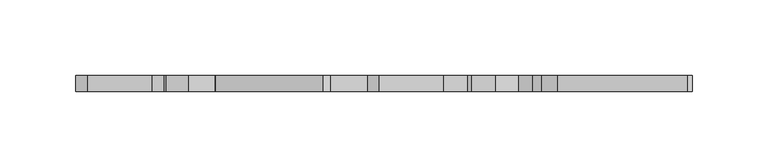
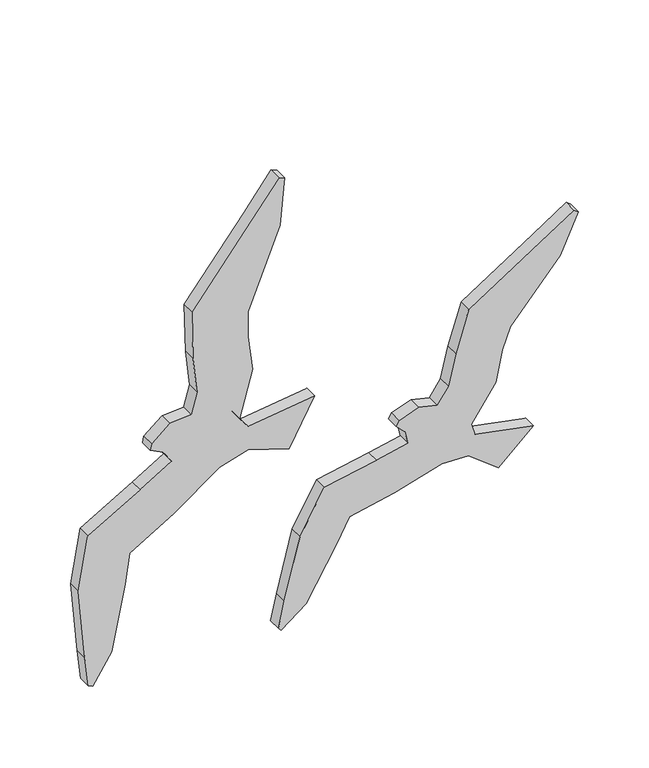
"""IFC4 building model written with IfcOpenShell, lengths in millimetres: geographic element geometry, Enscape AssetDefinition - Decorative Goods 018 Swallow Birds : Enscape AssetDefinition - Decorative Goods 018 Swallow Birds."""

from ifc_helpers import new_model, si_unit, origin, place, context, project, spatial, triangles, source, transform, mapped, element, save


def geographic_element_2652b80d(model_context):
    return source(origin(), model_context, "Body", "Tessellation", [
        triangles([(-109.9206616, -10.7452812, 346.7755629), (-111.0766957, -10.7452823, 387.7361441), (-109.9206616, -2.49e-05, 346.7755629), (-106.9172566, -10.7452698, 316.8375283), (-62.8719118, -5.43e-05, 449.412939), (-111.0766957, -3.71e-05, 387.7361441), (-39.1307647, -5.07e-05, 437.1838526), (-65.2917995, -3.26e-05, 371.4740916), (-65.3253867, -2.63e-05, 350.06675), (-35.4155981, -6.16e-05, 476.9084991), (-39.1307647, -10.7452846, 437.1838526), (-62.8719118, -10.7452846, 449.412939), (-40.1108511, -10.7452857, 478.6080683), (-35.4155981, -10.7452868, 476.9084991), (-40.1108511, -6.29e-05, 478.6080683), (-65.2917995, -10.7452812, 371.4740916), (-65.3253867, -10.74528, 350.06675), (-61.4546519, -10.7452709, 320.4509342), (-61.4546519, -2.63e-05, 320.4509342), (-71.9766704, -10.7452698, 281.7194502), (-106.9172566, -2.58e-05, 316.8375283), (-129.2481882, -10.7452698, 297.6769246), (-111.8386404, -2.08e-05, 299.0852325), (-111.8386404, -10.7452698, 299.0852325), (-144.1279032, -10.7452698, 285.3219556), (-129.2481882, -1.99e-05, 297.6769246), (-145.1173413, -10.7452698, 280.1092288), (-145.1173413, -1.49e-05, 280.1092288), (-134.6370308, -10.7452698, 274.752252), (-134.6370308, -1.31e-05, 274.752252), (-144.1279032, -1.68e-05, 285.3219556), (-127.8655964, -1.09e-05, 264.5109621), (-153.5621384, -6.3e-06, 248.6610575), (-127.8655964, -10.7452687, 264.5109621), (-153.5621384, -10.7452675, 248.6610575), (-125.6039248, -10.7452664, 218.9915385), (-161.9475459, -10.7452653, 197.0246744), (-196.1252199, -10.7452664, 224.2152022), (-203.925961, -10.7452641, 178.7880332), (-161.9475459, 8.6e-06, 197.0246744), (-196.1252199, 5e-07, 224.2152022), (-125.6039248, 2.3e-06, 218.9915385), (-203.925961, 1.31e-05, 178.7880332), (-198.6915603, 3.03e-05, 119.3768158), (-176.4890638, -10.7452607, 117.0791091), (-176.4890638, 3.03e-05, 117.0791091), (-165.6269724, 1.54e-05, 171.3909738), (-165.6269724, -10.7452641, 171.3909738), (-198.6915603, -10.7452619, 119.3768158), (-195.7177411, 3.67e-05, 94.5882762), (-195.7177411, -10.7452596, 94.5882762), (-192.3298665, 3.8e-05, 92.7897577), (-192.3298665, -10.7452607, 92.7897577), (-88.5293256, -5.9e-06, 245.6094995), (-88.5293256, -10.7452664, 245.6094995), (-65.1077855, -7.7e-06, 252.5995162), (-71.9766704, -1.54e-05, 281.7194502), (-65.3416375, -1.31e-05, 272.5810727), (-31.6867673, -4.1e-06, 241.4097741), (-10.9393157, -1.49e-05, 280.0071274), (-65.1077855, -10.7452675, 252.5995162), (-31.6867673, -10.7452675, 241.4097741), (-65.3416375, -10.7452687, 272.5810727), (-10.9393157, -10.7452698, 280.0071274), (104.4310984, -10.7452834, 276.028028), (115.338018, -4.3e-05, 310.6352906), (98.2652683, -10.7452687, 250.1079168), (115.338009, -10.7452891, 310.6352906), (173.551089, -6.65e-05, 348.2666782), (189.8704236, -6.16e-05, 331.1520979), (148.9324428, -3.71e-05, 283.7559902), (98.2652683, -2.44e-05, 250.1079168), (104.4310984, -2.67e-05, 276.028028), (148.9324428, -10.7452846, 283.7559902), (189.8704236, -10.7452948, 331.1520979), (173.551089, -10.7452971, 348.2666782), (204.4948398, -10.7453005, 363.3130709), (204.4948216, -7.65e-05, 363.3130709), (201.0589485, -10.7453005, 366.0962585), (201.0589485, -7.79e-05, 366.0962585), (142.6985119, -10.7452834, 265.8539761), (142.6985119, -2.85e-05, 265.8539761), (137.3517815, -10.7452698, 239.951996), (137.3517815, -2.54e-05, 239.951996), (89.0012353, -10.7452664, 236.6810656), (74.0262364, -10.7452664, 240.5496158), (89.0012353, -1.77e-05, 236.6810838), (65.5684769, -10.7452607, 212.3985362), (57.994616, -10.7452641, 234.5256194), (74.0262364, -1.68e-05, 240.5496158), (62.8716484, -10.745263, 222.9305059), (55.6556145, -10.7452641, 230.4509045), (55.6556145, -1e-05, 230.4509226), (62.8716484, -7.7e-06, 222.9305241), (57.994616, -1.22e-05, 234.5256194), (39.4731765, -10.7452596, 206.5859912), (39.4731765, 1.8e-06, 206.5859912), (93.0021448, 2.7e-06, 185.1801939), (65.5684769, -4.1e-06, 212.3985362), (54.265088, -10.7452562, 173.6563334), (93.0021358, -10.7452596, 185.1801939), (-3.2264524, -10.7452562, 198.4706254), (-22.9224131, 2.85e-05, 162.7226621), (-22.9224131, -10.7452482, 162.7226621), (17.4880121, -10.7452528, 165.8121901), (54.265088, 1.31e-05, 173.6563334), (-3.2264524, 1.13e-05, 198.4706254), (6.9783531, 3.12e-05, 145.4308487), (17.4880121, 2.17e-05, 165.8121901), (-17.8546515, 5.21e-05, 103.1364281), (-35.7656221, 5.16e-05, 111.4952929), (6.9783531, -10.7452482, 145.4308487), (-40.4634095, -10.7452357, 89.8923873), (-40.4634095, 6.07e-05, 89.8923873), (-35.7656221, -10.7452414, 111.4952929), (-38.150115, 6.2e-05, 87.4054389), (-17.8546515, -10.7452392, 103.1364281), (-38.150115, -10.745238, 87.4054389), (117.3199192, -10.7452641, 210.5952305), (117.3199192, -1.04e-05, 210.5952487), (139.3454098, 4.5e-06, 165.1880094), (114.6255252, 0.0, 184.2390813), (114.6255252, -10.7452596, 184.2390813), (120.2223856, -7.2e-06, 201.0256657), (139.3454098, -10.7452596, 165.1880094), (167.8941124, -1.04e-05, 191.468273), (120.2223856, -10.745263, 201.0256657), (167.8941124, -10.7452641, 191.468273)], [[128, 125, 126], [127, 128, 126], [127, 125, 128], [127, 123, 125], [125, 121, 126], [125, 123, 121], [124, 126, 121], [127, 126, 124], [119, 127, 124], [119, 123, 127], [119, 101, 123], [119, 88, 101], [123, 122, 121], [123, 101, 122], [124, 121, 122], [120, 124, 122], [119, 124, 120], [101, 98, 122], [120, 122, 98], [118, 113, 116], [117, 113, 118], [118, 116, 110], [117, 118, 110], [113, 114, 116], [110, 116, 114], [117, 115, 113], [113, 115, 114], [112, 115, 117], [112, 108, 109], [117, 110, 108], [112, 117, 108], [115, 111, 114], [108, 110, 111], [110, 114, 111], [112, 104, 115], [115, 104, 111], [104, 103, 111], [109, 108, 103], [108, 111, 103], [109, 103, 107], [106, 109, 107], [98, 106, 97], [106, 107, 97], [105, 109, 106], [105, 112, 109], [105, 104, 112], [102, 107, 103], [105, 102, 104], [104, 102, 103], [102, 97, 107], [100, 106, 98], [101, 100, 98], [100, 105, 106], [100, 102, 105], [102, 96, 97], [100, 96, 102], [101, 88, 96], [101, 96, 100], [120, 98, 99], [96, 88, 99], [98, 97, 99], [96, 99, 97], [92, 95, 93], [94, 93, 95], [88, 94, 99], [88, 91, 94], [91, 92, 93], [91, 93, 94], [92, 89, 95], [89, 92, 91], [95, 90, 94], [99, 94, 90], [89, 90, 95], [89, 86, 90], [86, 89, 91], [88, 86, 91], [88, 85, 86], [119, 85, 88], [86, 85, 87], [99, 90, 87], [120, 99, 87], [86, 87, 90], [85, 72, 87], [85, 67, 72], [83, 119, 120], [83, 67, 85], [83, 85, 119], [84, 120, 87], [84, 87, 72], [83, 120, 84], [81, 83, 84], [67, 83, 81], [82, 84, 72], [81, 84, 82], [74, 81, 82], [76, 79, 80], [76, 80, 69], [69, 80, 78], [79, 78, 80], [79, 77, 78], [76, 77, 79], [76, 75, 77], [77, 75, 70], [69, 78, 70], [77, 70, 78], [75, 74, 70], [74, 71, 70], [74, 82, 71], [72, 73, 82], [73, 71, 82], [67, 73, 72], [66, 69, 70], [73, 66, 71], [66, 70, 71], [68, 76, 69], [68, 74, 75], [68, 69, 66], [68, 75, 76], [65, 68, 66], [67, 65, 73], [65, 81, 74], [65, 66, 73], [65, 74, 68], [65, 67, 81], [64, 62, 60], [63, 64, 60], [63, 62, 64], [63, 61, 62], [62, 59, 60], [62, 61, 59], [58, 60, 59], [63, 60, 58], [20, 63, 58], [20, 61, 63], [20, 55, 61], [20, 34, 55], [61, 56, 59], [61, 55, 56], [58, 59, 56], [57, 58, 56], [20, 58, 57], [55, 54, 56], [57, 56, 54], [53, 51, 52], [45, 51, 53], [53, 52, 46], [45, 53, 46], [51, 50, 52], [46, 52, 50], [45, 49, 51], [51, 49, 50], [48, 49, 45], [48, 47, 40], [45, 46, 47], [48, 45, 47], [49, 44, 50], [47, 46, 44], [46, 50, 44], [48, 39, 49], [49, 39, 44], [39, 43, 44], [40, 47, 43], [47, 44, 43], [40, 43, 41], [42, 40, 41], [54, 42, 33], [42, 41, 33], [37, 40, 42], [37, 48, 40], [37, 39, 48], [38, 41, 43], [37, 38, 39], [39, 38, 43], [38, 33, 41], [36, 42, 54], [55, 36, 54], [36, 37, 42], [36, 38, 37], [38, 35, 33], [36, 35, 38], [55, 34, 35], [55, 35, 36], [57, 54, 32], [35, 34, 32], [54, 33, 32], [35, 32, 33], [27, 31, 28], [30, 28, 31], [34, 30, 32], [34, 29, 30], [29, 27, 28], [29, 28, 30], [27, 25, 31], [25, 27, 29], [31, 26, 30], [32, 30, 26], [25, 26, 31], [25, 22, 26], [22, 25, 29], [34, 22, 29], [34, 24, 22], [20, 24, 34], [22, 24, 23], [32, 26, 23], [57, 32, 23], [22, 23, 26], [24, 21, 23], [24, 4, 21], [18, 20, 57], [18, 4, 24], [18, 24, 20], [19, 57, 23], [19, 23, 21], [18, 57, 19], [17, 18, 19], [4, 18, 17], [9, 19, 21], [17, 19, 9], [16, 17, 9], [12, 13, 15], [12, 15, 5], [5, 15, 10], [13, 10, 15], [13, 14, 10], [12, 14, 13], [12, 11, 14], [14, 11, 7], [5, 10, 7], [14, 7, 10], [11, 16, 7], [16, 8, 7], [16, 9, 8], [21, 3, 9], [3, 8, 9], [4, 3, 21], [6, 5, 7], [3, 6, 8], [6, 7, 8], [2, 12, 5], [2, 16, 11], [2, 5, 6], [2, 11, 12], [1, 2, 6], [4, 1, 3], [1, 17, 16], [1, 6, 3], [1, 16, 2], [1, 4, 17]]),
    ])


if __name__ == "__main__":
    model = new_model("IFC4")
    model_context = context("Model", 3, world=origin())
    ifc_project = project(units=[si_unit("LENGTHUNIT", "METRE", prefix="MILLI")], contexts=[model_context])
    site = spatial("IfcSite", under=ifc_project)
    building = spatial("IfcBuilding", under=site)
    placement = place(None, origin())
    geographic_element_shape = geographic_element_2652b80d(model_context)
    element("IfcGeographicElement", 1, ObjectType="Enscape AssetDefinition - Decorative Goods 018 Swallow Birds : Enscape AssetDefinition - Decorative Goods 018 Swallow Birds", at=placement, inside=building, context=model_context, shape_type="MappedRepresentation", body=[
        mapped(geographic_element_shape, transform((0.0, 0.0, 0.0), x_axis=(1.0, 0.0, 0.0), y_axis=(0.0, 1.0, 0.0), z_axis=(0.0, 0.0, 1.0))),
    ])
    save(model, "model.ifc")
